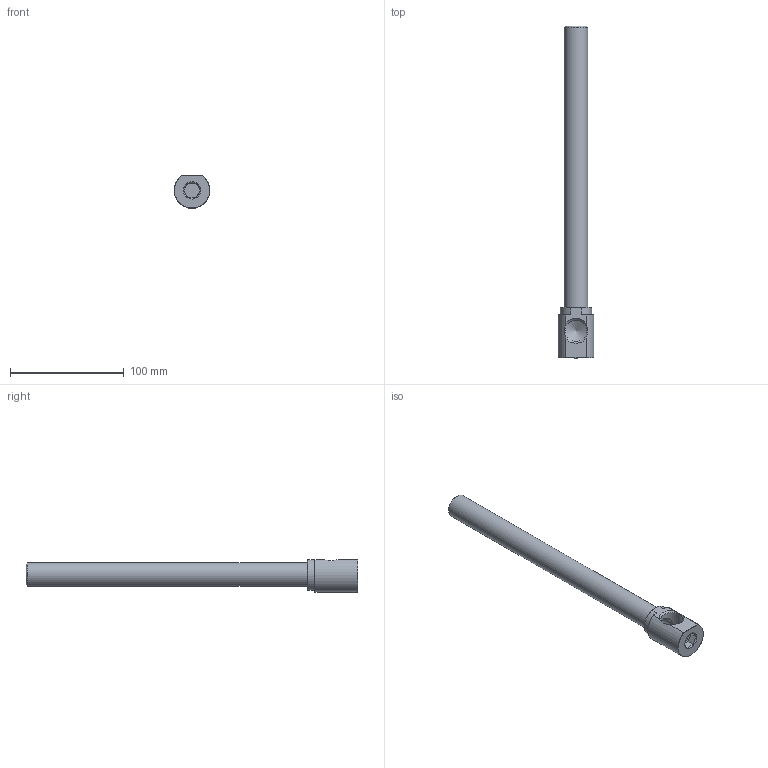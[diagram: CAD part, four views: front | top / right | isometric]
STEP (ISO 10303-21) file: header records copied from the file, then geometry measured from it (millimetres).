
FILE_DESCRIPTION(/* description */ (''),/* implementation_level */ '2;1');
FILE_NAME(/* name */ 'C:/Users/drich/Desktop/EKL50 X 11.5 v2.step',/* time_stamp */ '2019-11-18T14:44:17-06:00',/* author */ (''),/* organization */ (''),/* preprocessor_version */ 'ST-DEVELOPER v18',/* originating_system */ 'Autodesk Translation Framework v8.12.0.6',/* authorisation */ '');
FILE_SCHEMA (('AUTOMOTIVE_DESIGN { 1 0 10303 214 3 1 1 }'));
Length unit declared in the file: inch
Products named in the file (2): EKL50 X 11.5; EKL50 X 11-1/2
Assembly tree (1 placements, depth 2):
  EKL50 X 11.5
    EKL50 X 11-1/2
Bounding box: 31.46 x 292.1 x 28.75 mm (x, y, z)
Volume: 67022.6 mm3; surface area: 34858 mm2
Topology: 1 solids, 1 shells, 32 faces, 81 edges, 53 vertices
Faces by surface type: plane 16, cone 10, cylinder 6
Full cylindrical faces by diameter (mm): 14.275 x1, 14.986 x1, 18.901 x1, 20.813 x1
Entity records: 1072 total; most frequent: CARTESIAN_POINT 263, ORIENTED_EDGE 160, DIRECTION 156, EDGE_CURVE 80, AXIS2_PLACEMENT_3D 61, VERTEX_POINT 53, EDGE_LOOP 37, LINE 34
